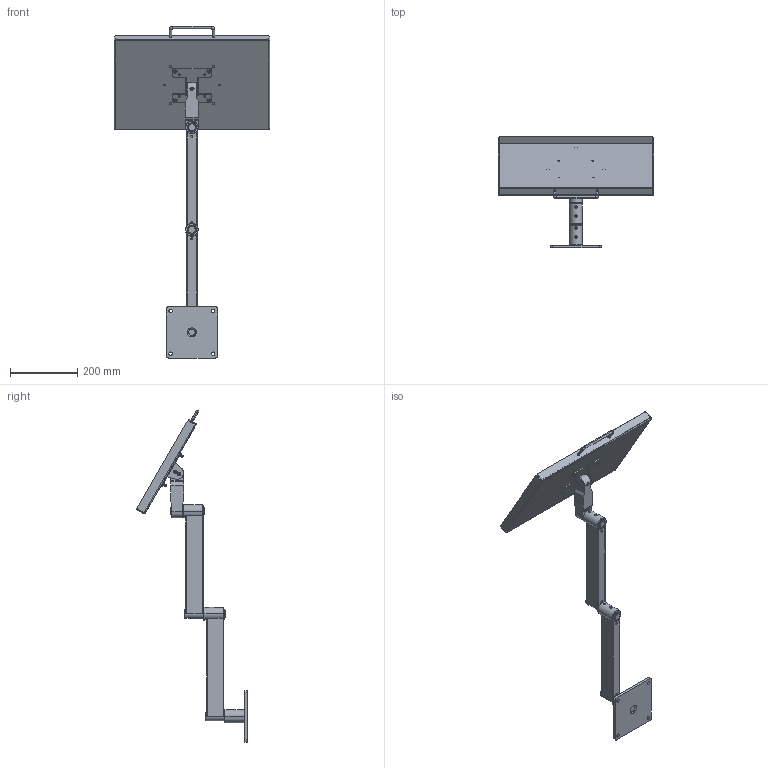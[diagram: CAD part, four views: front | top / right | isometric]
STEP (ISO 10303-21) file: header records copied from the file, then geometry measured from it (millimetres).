
FILE_DESCRIPTION (( 'STEP AP203' ), '1' );
FILE_NAME ('70-0703-00 REV AA, 24in RIGID SYSTEM, TILTING TRAY, TABLE MOUNT - ANGLE.STEP', '2025-07-22T22:58:26', ( '' ), ( '' ), 'SwSTEP 2.0', 'SolidWorks 2025', '' );
FILE_SCHEMA (( 'CONFIG_CONTROL_DESIGN' ));
Length unit declared in the file: inch
Products named in the file (29): 007-036-00, SHSS, 1''4-28, .25L_007-036-00; 025-067-00, HANDLE, U SHAPED, 8-32; 016-012-00, OILITE PLUS BEARING, .876 IDx1.0 OD x 1.0; 016-008-00, OILITE PLUS BEARING, 0.876 id x 1.002 od x 1.25 lg; 70-0402-00 REV AA, 18x12 TILTING TOOL TRAY ASSEMBLY; 11-0450-00 REV AA, FOAM, YELLOW, 18x12; 11-0028-RX REV AA, PLASTIC DISC, VESA; 70-0060-00 REV AA, VESA ATTACHMENT; 010-012-00, RETAINING RING, EXTERNAL, .875in SHAFT; 70-0048-RX REV AA, CONNECTOR PIN, 875OD x 3.9; 002-090-00, FHSCS 10-32 x .625L_002-090-00; 71-1012-RX REV AA, HOUSING, 12in RIGID_MACHINE; 70-0048-00 REV AA, CONNECTOR PIN ASSEMBLY, .875OD x 3.9; 016-007-00, OILITE PLUS BEARING, 0.876 id x 1.002 od x 0.75 lg; 002-100-00, BHSCS, 8-32x.375_002-100-00; 11-0062-BLKX REV AA, BRACKET, VESA, SHEETMETAL, BLACK; 71-2113-RX REV AA, HOUSING, BEARING, TALL, 1.5OD_MACHINE; 006-008-00, NUT, HEX, 10-32 x .125_006-008-00; 11-0401-00 REV AA, 18x12 TOOL TRAY, BLACK; 71-0022-RX REV AA, PIN, RIGID SECTION; 70-1012-00 REV AA, 12in RIGID SECTION; 41-0063-RX REV AA, PIN, TILT, VESA; 71-1061-RX REV AA, BODY, VESA, RAW_MACHINE; 70-0015-00 REV AA, TABLE MOUNT; 70-0703-00 REV AA, 24in RIGID SYSTEM, TILTING TRAY, TABLE MOUNT - ANGLE; 71-0122-RX REV AA, PLATE, PIVOT PLATE; 002-088-00, FHSCS 10-32 x .5L, BO_002-088-00; 007-034-00, SHSS, .375-24, .25L_007-034-00
Assembly tree (53 placements, depth 4):
  70-0703-00 REV AA, 24in RIGID SYSTEM, TILTING TRAY, TABLE MOUNT - ANGLE
    70-0015-00 REV AA, TABLE MOUNT
      71-2113-RX REV AA, HOUSING, BEARING, TALL, 1.5OD_MACHINE
      71-0122-RX REV AA, PLATE, PIVOT PLATE
      016-007-00, OILITE PLUS BEARING, 0.876 id x 1.002 od x 0.75 lg
      016-008-00, OILITE PLUS BEARING, 0.876 id x 1.002 od x 1.25 lg
      007-036-00, SHSS, 1''4-28, .25L_007-036-00
    70-1012-00 REV AA, 12in RIGID SECTION
      71-1012-RX REV AA, HOUSING, 12in RIGID_MACHINE
      71-0022-RX REV AA, PIN, RIGID SECTION
      71-2113-RX REV AA, HOUSING, BEARING, TALL, 1.5OD_MACHINE
      016-007-00, OILITE PLUS BEARING, 0.876 id x 1.002 od x 0.75 lg
      016-008-00, OILITE PLUS BEARING, 0.876 id x 1.002 od x 1.25 lg
      007-036-00, SHSS, 1''4-28, .25L_007-036-00
    70-1012-00 REV AA, 12in RIGID SECTION
      71-1012-RX REV AA, HOUSING, 12in RIGID_MACHINE
      71-0022-RX REV AA, PIN, RIGID SECTION
      71-2113-RX REV AA, HOUSING, BEARING, TALL, 1.5OD_MACHINE
      016-007-00, OILITE PLUS BEARING, 0.876 id x 1.002 od x 0.75 lg
      016-008-00, OILITE PLUS BEARING, 0.876 id x 1.002 od x 1.25 lg
      007-036-00, SHSS, 1''4-28, .25L_007-036-00
      010-012-00, RETAINING RING, EXTERNAL, .875in SHAFT
    70-0048-00 REV AA, CONNECTOR PIN ASSEMBLY, .875OD x 3.9
      70-0048-RX REV AA, CONNECTOR PIN, 875OD x 3.9
      010-012-00, RETAINING RING, EXTERNAL, .875in SHAFT  x2
    70-0402-00 REV AA, 18x12 TILTING TOOL TRAY ASSEMBLY
      70-0060-00 REV AA, VESA ATTACHMENT
        71-1061-RX REV AA, BODY, VESA, RAW_MACHINE
        016-008-00, OILITE PLUS BEARING, 0.876 id x 1.002 od x 1.25 lg
        016-012-00, OILITE PLUS BEARING, .876 IDx1.0 OD x 1.0
        007-034-00, SHSS, .375-24, .25L_007-034-00
        41-0063-RX REV AA, PIN, TILT, VESA
        11-0028-RX REV AA, PLASTIC DISC, VESA  x2
        11-0062-BLKX REV AA, BRACKET, VESA, SHEETMETAL, BLACK
        002-088-00, FHSCS 10-32 x .5L, BO_002-088-00  x4
        007-036-00, SHSS, 1''4-28, .25L_007-036-00
      11-0401-00 REV AA, 18x12 TOOL TRAY, BLACK
      025-067-00, HANDLE, U SHAPED, 8-32
      11-0450-00 REV AA, FOAM, YELLOW, 18x12
      002-100-00, BHSCS, 8-32x.375_002-100-00  x2
      002-090-00, FHSCS 10-32 x .625L_002-090-00  x4
      006-008-00, NUT, HEX, 10-32 x .125_006-008-00  x4
Bounding box: 461.77 x 330.47 x 987.22 mm (x, y, z)
Volume: 1706542.1 mm3; surface area: 1049100.1 mm2
Topology: 47 solids, 47 shells, 1831 faces, 4493 edges, 2757 vertices
Faces by surface type: cylinder 905, cone 414, plane 347, torus 112, bspline 49, sphere 4
Entity records: 35553 total; most frequent: CARTESIAN_POINT 13877, ORIENTED_EDGE 3780, DIRECTION 3767, EDGE_CURVE 1890, AXIS2_PLACEMENT_3D 1495, VERTEX_POINT 1168, EDGE_LOOP 894, ADVANCED_FACE 778
